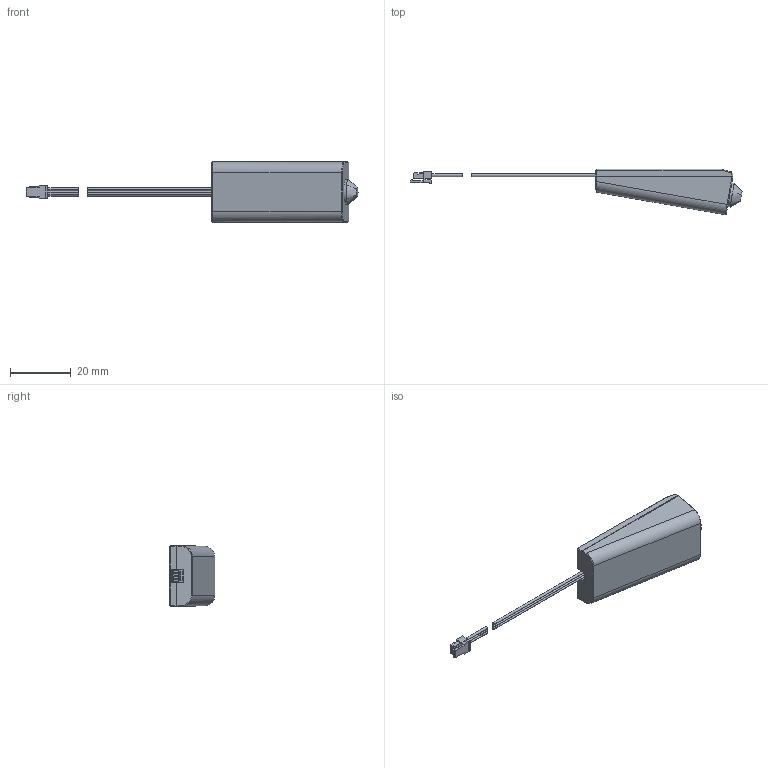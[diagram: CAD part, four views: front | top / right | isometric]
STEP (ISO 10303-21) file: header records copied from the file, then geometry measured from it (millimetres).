
FILE_DESCRIPTION (( 'STEP AP203' ), '1' );
FILE_NAME ('MultiSwitch_Bewegungsmelder_24.STEP', '2024-12-03T05:29:54', ( '' ), ( '' ), 'SwSTEP 2.0', 'SolidWorks 2023', '' );
FILE_SCHEMA (( 'CONFIG_CONTROL_DESIGN' ));
Length unit declared in the file: millimetre
Products named in the file (9): Stecker_A1005-HA3P_getr.; 2577705_30.152.01 - MBW-02; 2577905_25.779.01; MultiSwitch_Bewegungsmelder_24; Buchse_A1005-WAR-S-3P; 3015299; 3015299_PCB; FRESENEL_LENS_8140_Multiswitch5; Stecker_A1005-HA3P_kurz
Assembly tree (8 placements, depth 3):
  MultiSwitch_Bewegungsmelder_24
    2577705_30.152.01 - MBW-02
    2577905_25.779.01
    FRESENEL_LENS_8140_Multiswitch5
    3015299
      3015299_PCB
      Buchse_A1005-WAR-S-3P
    Stecker_A1005-HA3P_getr.
    Stecker_A1005-HA3P_kurz
Bounding box: 108.9 x 14.95 x 20 mm (x, y, z)
Volume: 4925.2 mm3; surface area: 9080.3 mm2
Topology: 11 solids, 11 shells, 819 faces, 2189 edges, 1370 vertices
Faces by surface type: plane 551, cylinder 179, sphere 32, torus 31, bspline 18, cone 8
Entity records: 27324 total; most frequent: CARTESIAN_POINT 6146, ORIENTED_EDGE 4314, DIRECTION 4053, EDGE_CURVE 2157, LINE 1649, VECTOR 1649, VERTEX_POINT 1368, AXIS2_PLACEMENT_3D 1202
